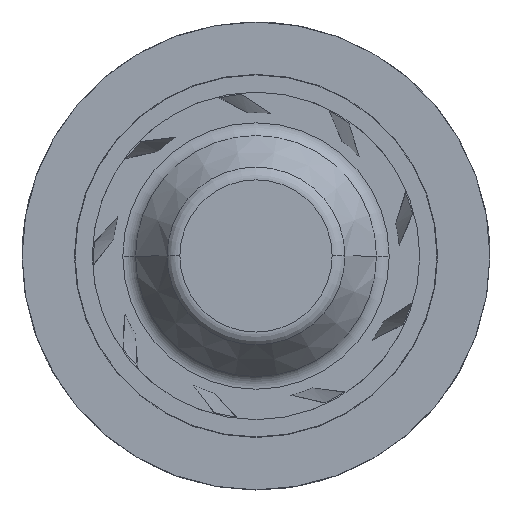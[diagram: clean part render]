
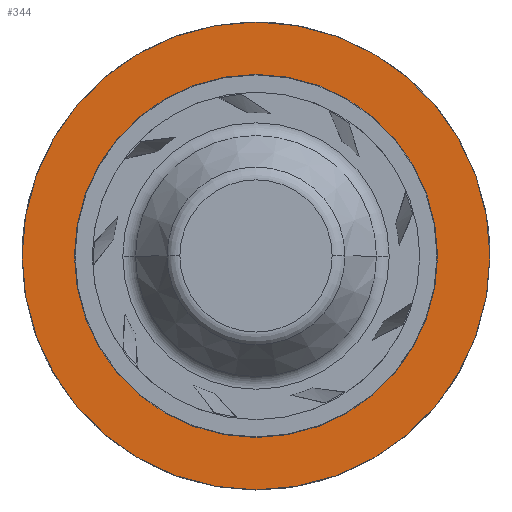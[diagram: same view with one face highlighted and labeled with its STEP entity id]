
A CAD part, top view. The second image highlights one B-rep face of the part: STEP entity #344.
In plain terms, the highlighted planar face has unit normal (0, 0, 1).
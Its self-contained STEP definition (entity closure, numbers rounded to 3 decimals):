
#45 = CIRCLE ( 'NONE', #3251, 75. ) ;
#154 = DIRECTION ( 'NONE',  ( 0., 0., 1. ) ) ;
#344 = ADVANCED_FACE ( 'NONE', ( #2944, #2042 ), #2445, .T. ) ;
#463 = VERTEX_POINT ( 'NONE', #1830 ) ;
#514 = DIRECTION ( 'NONE',  ( 0., 0., 1. ) ) ;
#579 = EDGE_CURVE ( 'NONE', #3501, #3008, #640, .T. ) ;
#588 = CARTESIAN_POINT ( 'NONE',  ( 0., 0., 20.5 ) ) ;
#640 = CIRCLE ( 'NONE', #826, 58.2 ) ;
#691 = VERTEX_POINT ( 'NONE', #1356 ) ;
#715 = EDGE_LOOP ( 'NONE', ( #2748, #2402 ) ) ;
#783 = DIRECTION ( 'NONE',  ( 1., 0., 0. ) ) ;
#826 = AXIS2_PLACEMENT_3D ( 'NONE', #588, #2926, #923 ) ;
#923 = DIRECTION ( 'NONE',  ( 1., 0., 0. ) ) ;
#933 = CARTESIAN_POINT ( 'NONE',  ( 0., 0., 20.5 ) ) ;
#1356 = CARTESIAN_POINT ( 'NONE',  ( 75., 0., 20.5 ) ) ;
#1515 = DIRECTION ( 'NONE',  ( 1., 0., 0. ) ) ;
#1565 = CARTESIAN_POINT ( 'NONE',  ( -58.2, 0., 20.5 ) ) ;
#1753 = AXIS2_PLACEMENT_3D ( 'NONE', #3056, #4163, #2667 ) ;
#1768 = EDGE_CURVE ( 'NONE', #691, #463, #4140, .T. ) ;
#1830 = CARTESIAN_POINT ( 'NONE',  ( -75., 0., 20.5 ) ) ;
#1848 = EDGE_CURVE ( 'NONE', #3008, #3501, #3930, .T. ) ;
#1974 = ORIENTED_EDGE ( 'NONE', *, *, #2064, .T. ) ;
#2025 = AXIS2_PLACEMENT_3D ( 'NONE', #3477, #154, #2457 ) ;
#2042 = FACE_BOUND ( 'NONE', #715, .T. ) ;
#2064 = EDGE_CURVE ( 'NONE', #463, #691, #45, .T. ) ;
#2107 = EDGE_LOOP ( 'NONE', ( #1974, #3927 ) ) ;
#2232 = CARTESIAN_POINT ( 'NONE',  ( 58.2, 0., 20.5 ) ) ;
#2402 = ORIENTED_EDGE ( 'NONE', *, *, #579, .F. ) ;
#2445 = PLANE ( 'NONE',  #2025 ) ;
#2457 = DIRECTION ( 'NONE',  ( 1., 0., 0. ) ) ;
#2667 = DIRECTION ( 'NONE',  ( 1., 0., 0. ) ) ;
#2748 = ORIENTED_EDGE ( 'NONE', *, *, #1848, .F. ) ;
#2868 = AXIS2_PLACEMENT_3D ( 'NONE', #933, #3210, #1515 ) ;
#2876 = CARTESIAN_POINT ( 'NONE',  ( 0., 0., 20.5 ) ) ;
#2926 = DIRECTION ( 'NONE',  ( 0., 0., 1. ) ) ;
#2944 = FACE_OUTER_BOUND ( 'NONE', #2107, .T. ) ;
#3008 = VERTEX_POINT ( 'NONE', #1565 ) ;
#3056 = CARTESIAN_POINT ( 'NONE',  ( 0., 0., 20.5 ) ) ;
#3210 = DIRECTION ( 'NONE',  ( 0., 0., 1. ) ) ;
#3251 = AXIS2_PLACEMENT_3D ( 'NONE', #2876, #514, #783 ) ;
#3477 = CARTESIAN_POINT ( 'NONE',  ( 75., 0., 20.5 ) ) ;
#3501 = VERTEX_POINT ( 'NONE', #2232 ) ;
#3927 = ORIENTED_EDGE ( 'NONE', *, *, #1768, .T. ) ;
#3930 = CIRCLE ( 'NONE', #2868, 58.2 ) ;
#4140 = CIRCLE ( 'NONE', #1753, 75. ) ;
#4163 = DIRECTION ( 'NONE',  ( 0., 0., 1. ) ) ;
